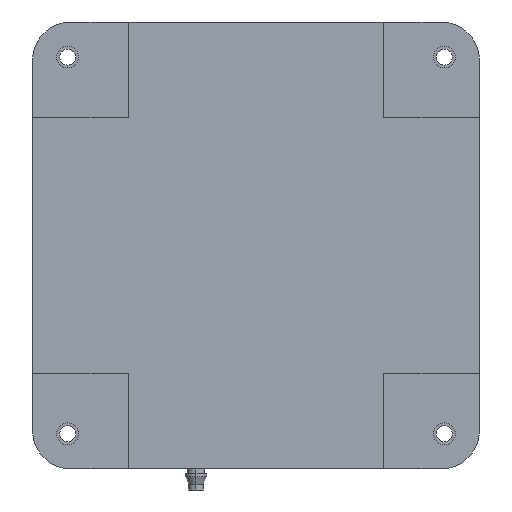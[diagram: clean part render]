
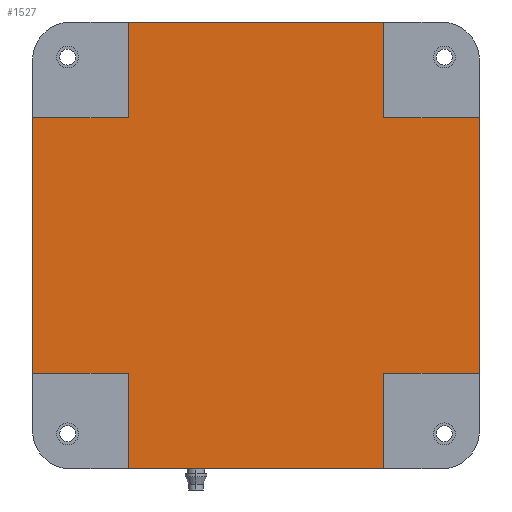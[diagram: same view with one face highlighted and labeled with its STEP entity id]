
A CAD part, front view. The second image highlights one B-rep face of the part: STEP entity #1527.
In plain terms, the highlighted planar face has unit normal (0, -1, 0).
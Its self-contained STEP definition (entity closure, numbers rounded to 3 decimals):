
#157 = CARTESIAN_POINT ( 'NONE',  ( 35., 1., 20. ) ) ;
#621 = EDGE_CURVE ( 'NONE', #1198, #42131, #8620, .T. ) ;
#935 = CARTESIAN_POINT ( 'NONE',  ( -20., 1., -35. ) ) ;
#1198 = VERTEX_POINT ( 'NONE', #42830 ) ;
#1527 = ADVANCED_FACE ( 'NONE', ( #23113 ), #34771, .T. ) ;
#2363 = VECTOR ( 'NONE', #39182, 1000. ) ;
#2978 = ORIENTED_EDGE ( 'NONE', *, *, #42567, .F. ) ;
#3086 = AXIS2_PLACEMENT_3D ( 'NONE', #38367, #34613, #10425 ) ;
#3779 = CARTESIAN_POINT ( 'NONE',  ( 0., 1., -20. ) ) ;
#4116 = DIRECTION ( 'NONE',  ( -1., 0., 0. ) ) ;
#4521 = ORIENTED_EDGE ( 'NONE', *, *, #621, .T. ) ;
#4860 = CARTESIAN_POINT ( 'NONE',  ( 20., 1., 35. ) ) ;
#4905 = CARTESIAN_POINT ( 'NONE',  ( 0., 1., 20. ) ) ;
#5961 = DIRECTION ( 'NONE',  ( 0., 0., -1. ) ) ;
#6138 = VERTEX_POINT ( 'NONE', #38448 ) ;
#6368 = ORIENTED_EDGE ( 'NONE', *, *, #34275, .F. ) ;
#8620 = LINE ( 'NONE', #23695, #16130 ) ;
#9092 = CARTESIAN_POINT ( 'NONE',  ( 0., 1., -35. ) ) ;
#9522 = ORIENTED_EDGE ( 'NONE', *, *, #41917, .T. ) ;
#10425 = DIRECTION ( 'NONE',  ( 0., 0., -1. ) ) ;
#10440 = ORIENTED_EDGE ( 'NONE', *, *, #42260, .T. ) ;
#10447 = EDGE_CURVE ( 'NONE', #1198, #29266, #12645, .T. ) ;
#10927 = VECTOR ( 'NONE', #33113, 1000. ) ;
#11502 = LINE ( 'NONE', #4905, #2363 ) ;
#12645 = LINE ( 'NONE', #3779, #29805 ) ;
#12666 = LINE ( 'NONE', #40392, #39572 ) ;
#14296 = VERTEX_POINT ( 'NONE', #30317 ) ;
#14952 = DIRECTION ( 'NONE',  ( 0., 0., -1. ) ) ;
#14991 = EDGE_CURVE ( 'NONE', #6138, #14296, #17203, .T. ) ;
#15437 = CARTESIAN_POINT ( 'NONE',  ( 20., 1., 20. ) ) ;
#15466 = VECTOR ( 'NONE', #14952, 1000. ) ;
#16130 = VECTOR ( 'NONE', #19381, 1000. ) ;
#16693 = VERTEX_POINT ( 'NONE', #15437 ) ;
#16959 = VERTEX_POINT ( 'NONE', #157 ) ;
#17203 = LINE ( 'NONE', #28455, #34354 ) ;
#17362 = DIRECTION ( 'NONE',  ( -1., 0., 0. ) ) ;
#17575 = VECTOR ( 'NONE', #27718, 1000. ) ;
#18099 = LINE ( 'NONE', #20020, #17575 ) ;
#18879 = EDGE_CURVE ( 'NONE', #39960, #22919, #12666, .T. ) ;
#19053 = CARTESIAN_POINT ( 'NONE',  ( -35., 1., 20. ) ) ;
#19221 = VECTOR ( 'NONE', #33162, 1000. ) ;
#19381 = DIRECTION ( 'NONE',  ( 0., 0., -1. ) ) ;
#19506 = DIRECTION ( 'NONE',  ( -1., 0., 0. ) ) ;
#19764 = ORIENTED_EDGE ( 'NONE', *, *, #43773, .T. ) ;
#19776 = LINE ( 'NONE', #26090, #19221 ) ;
#19782 = VECTOR ( 'NONE', #26347, 1000. ) ;
#20020 = CARTESIAN_POINT ( 'NONE',  ( 20., 1., 0. ) ) ;
#20812 = LINE ( 'NONE', #29518, #19782 ) ;
#22209 = CARTESIAN_POINT ( 'NONE',  ( -20., 1., 20. ) ) ;
#22919 = VERTEX_POINT ( 'NONE', #22209 ) ;
#23113 = FACE_OUTER_BOUND ( 'NONE', #35749, .T. ) ;
#23695 = CARTESIAN_POINT ( 'NONE',  ( -20., 1., 0. ) ) ;
#24389 = VERTEX_POINT ( 'NONE', #4860 ) ;
#24958 = ORIENTED_EDGE ( 'NONE', *, *, #14991, .F. ) ;
#25969 = CARTESIAN_POINT ( 'NONE',  ( 20., 1., 0. ) ) ;
#26090 = CARTESIAN_POINT ( 'NONE',  ( 0., 1., 20. ) ) ;
#26347 = DIRECTION ( 'NONE',  ( 0., 0., 1. ) ) ;
#27718 = DIRECTION ( 'NONE',  ( 0., 0., -1. ) ) ;
#28455 = CARTESIAN_POINT ( 'NONE',  ( 0., 1., -20. ) ) ;
#29266 = VERTEX_POINT ( 'NONE', #31985 ) ;
#29518 = CARTESIAN_POINT ( 'NONE',  ( 35., 1., 0. ) ) ;
#29805 = VECTOR ( 'NONE', #17362, 1000. ) ;
#30316 = EDGE_CURVE ( 'NONE', #16959, #16693, #19776, .T. ) ;
#30317 = CARTESIAN_POINT ( 'NONE',  ( 20., 1., -20. ) ) ;
#31985 = CARTESIAN_POINT ( 'NONE',  ( -35., 1., -20. ) ) ;
#32409 = CARTESIAN_POINT ( 'NONE',  ( 20., 1., -35. ) ) ;
#33113 = DIRECTION ( 'NONE',  ( 1., 0., 0. ) ) ;
#33162 = DIRECTION ( 'NONE',  ( -1., 0., 0. ) ) ;
#33431 = CARTESIAN_POINT ( 'NONE',  ( -35., 1., 35. ) ) ;
#33823 = ORIENTED_EDGE ( 'NONE', *, *, #44043, .T. ) ;
#34068 = LINE ( 'NONE', #9092, #10927 ) ;
#34249 = ORIENTED_EDGE ( 'NONE', *, *, #30316, .T. ) ;
#34275 = EDGE_CURVE ( 'NONE', #14296, #34710, #38233, .T. ) ;
#34354 = VECTOR ( 'NONE', #4116, 1000. ) ;
#34475 = VECTOR ( 'NONE', #40119, 1000. ) ;
#34613 = DIRECTION ( 'NONE',  ( 0., -1., 0. ) ) ;
#34710 = VERTEX_POINT ( 'NONE', #32409 ) ;
#34771 = PLANE ( 'NONE',  #3086 ) ;
#35749 = EDGE_LOOP ( 'NONE', ( #33823, #37199, #19764, #10440, #38856, #4521, #43404, #6368, #24958, #9522, #34249, #2978 ) ) ;
#35797 = CARTESIAN_POINT ( 'NONE',  ( -35., 1., 0. ) ) ;
#37199 = ORIENTED_EDGE ( 'NONE', *, *, #18879, .T. ) ;
#37830 = LINE ( 'NONE', #33431, #43807 ) ;
#38233 = LINE ( 'NONE', #25969, #34475 ) ;
#38367 = CARTESIAN_POINT ( 'NONE',  ( 0., 1., 0. ) ) ;
#38448 = CARTESIAN_POINT ( 'NONE',  ( 35., 1., -20. ) ) ;
#38856 = ORIENTED_EDGE ( 'NONE', *, *, #10447, .F. ) ;
#39182 = DIRECTION ( 'NONE',  ( -1., 0., 0. ) ) ;
#39572 = VECTOR ( 'NONE', #5961, 1000. ) ;
#39960 = VERTEX_POINT ( 'NONE', #43765 ) ;
#40119 = DIRECTION ( 'NONE',  ( 0., 0., -1. ) ) ;
#40161 = LINE ( 'NONE', #35797, #15466 ) ;
#40392 = CARTESIAN_POINT ( 'NONE',  ( -20., 1., 0. ) ) ;
#41917 = EDGE_CURVE ( 'NONE', #6138, #16959, #20812, .T. ) ;
#41927 = VERTEX_POINT ( 'NONE', #19053 ) ;
#42131 = VERTEX_POINT ( 'NONE', #935 ) ;
#42260 = EDGE_CURVE ( 'NONE', #41927, #29266, #40161, .T. ) ;
#42567 = EDGE_CURVE ( 'NONE', #24389, #16693, #18099, .T. ) ;
#42830 = CARTESIAN_POINT ( 'NONE',  ( -20., 1., -20. ) ) ;
#43404 = ORIENTED_EDGE ( 'NONE', *, *, #44402, .T. ) ;
#43765 = CARTESIAN_POINT ( 'NONE',  ( -20., 1., 35. ) ) ;
#43773 = EDGE_CURVE ( 'NONE', #22919, #41927, #11502, .T. ) ;
#43807 = VECTOR ( 'NONE', #19506, 1000. ) ;
#44043 = EDGE_CURVE ( 'NONE', #24389, #39960, #37830, .T. ) ;
#44402 = EDGE_CURVE ( 'NONE', #42131, #34710, #34068, .T. ) ;
